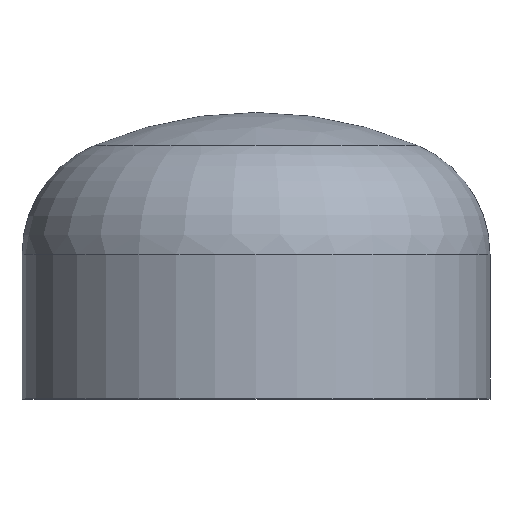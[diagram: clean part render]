
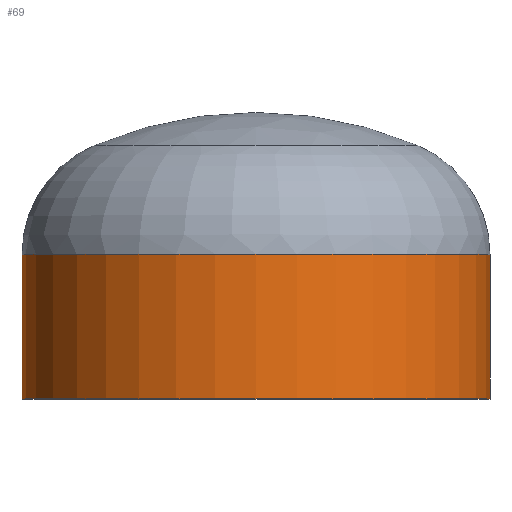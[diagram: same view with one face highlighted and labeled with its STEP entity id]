
A CAD part, top view. The second image highlights one B-rep face of the part: STEP entity #69.
In plain terms, the highlighted cylindrical face has radius 161.95 mm (diameter 323.9 mm), a partial arc.
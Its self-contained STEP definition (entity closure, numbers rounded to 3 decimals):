
#24 = DIRECTION ( 'NONE',  ( 0., -1., 0. ) ) ;
#26 = AXIS2_PLACEMENT_3D ( 'NONE', #110, #113, #205 ) ;
#34 = ORIENTED_EDGE ( 'NONE', *, *, #312, .F. ) ;
#52 = CIRCLE ( 'NONE', #60, 161.95 ) ;
#60 = AXIS2_PLACEMENT_3D ( 'NONE', #147, #317, #315 ) ;
#61 = AXIS2_PLACEMENT_3D ( 'NONE', #188, #330, #396 ) ;
#68 = EDGE_CURVE ( 'NONE', #102, #290, #73, .T. ) ;
#69 = ADVANCED_FACE ( 'NONE', ( #225 ), #134, .T. ) ;
#73 = LINE ( 'NONE', #191, #375 ) ;
#87 = EDGE_CURVE ( 'NONE', #102, #339, #52, .T. ) ;
#92 = LINE ( 'NONE', #127, #327 ) ;
#102 = VERTEX_POINT ( 'NONE', #294 ) ;
#110 = CARTESIAN_POINT ( 'NONE',  ( 0., 0., 0. ) ) ;
#113 = DIRECTION ( 'NONE',  ( 0., -1., 0. ) ) ;
#124 = CARTESIAN_POINT ( 'NONE',  ( 161.95, 0., 0. ) ) ;
#127 = CARTESIAN_POINT ( 'NONE',  ( -161.95, 0., 0. ) ) ;
#129 = ORIENTED_EDGE ( 'NONE', *, *, #307, .T. ) ;
#134 = CYLINDRICAL_SURFACE ( 'NONE', #61, 161.95 ) ;
#144 = VERTEX_POINT ( 'NONE', #346 ) ;
#147 = CARTESIAN_POINT ( 'NONE',  ( 0., 100., 0. ) ) ;
#166 = ORIENTED_EDGE ( 'NONE', *, *, #68, .F. ) ;
#188 = CARTESIAN_POINT ( 'NONE',  ( 0., 0., 0. ) ) ;
#190 = DIRECTION ( 'NONE',  ( 0., -1., 0. ) ) ;
#191 = CARTESIAN_POINT ( 'NONE',  ( 161.95, 0., 0. ) ) ;
#199 = CARTESIAN_POINT ( 'NONE',  ( -161.95, 100., 0. ) ) ;
#205 = DIRECTION ( 'NONE',  ( 1., 0., 0. ) ) ;
#217 = ORIENTED_EDGE ( 'NONE', *, *, #87, .T. ) ;
#225 = FACE_OUTER_BOUND ( 'NONE', #359, .T. ) ;
#239 = CIRCLE ( 'NONE', #26, 161.95 ) ;
#290 = VERTEX_POINT ( 'NONE', #124 ) ;
#294 = CARTESIAN_POINT ( 'NONE',  ( 161.95, 100., 0. ) ) ;
#307 = EDGE_CURVE ( 'NONE', #339, #144, #92, .T. ) ;
#312 = EDGE_CURVE ( 'NONE', #290, #144, #239, .T. ) ;
#315 = DIRECTION ( 'NONE',  ( 1., 0., 0. ) ) ;
#317 = DIRECTION ( 'NONE',  ( 0., -1., 0. ) ) ;
#327 = VECTOR ( 'NONE', #24, 1000. ) ;
#330 = DIRECTION ( 'NONE',  ( 0., -1., 0. ) ) ;
#339 = VERTEX_POINT ( 'NONE', #199 ) ;
#346 = CARTESIAN_POINT ( 'NONE',  ( -161.95, 0., 0. ) ) ;
#359 = EDGE_LOOP ( 'NONE', ( #217, #129, #34, #166 ) ) ;
#375 = VECTOR ( 'NONE', #190, 1000. ) ;
#396 = DIRECTION ( 'NONE',  ( 1., 0., 0. ) ) ;
